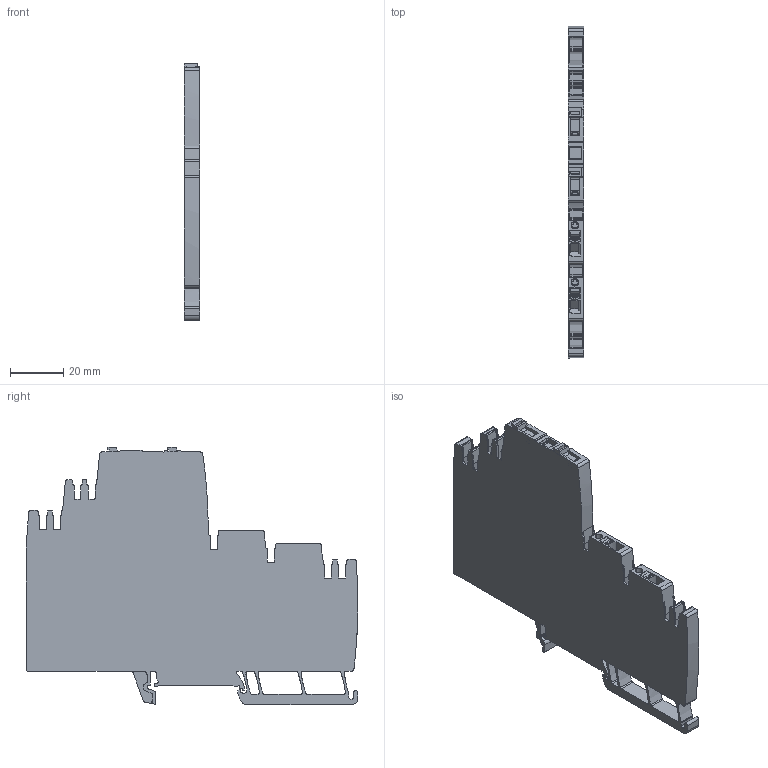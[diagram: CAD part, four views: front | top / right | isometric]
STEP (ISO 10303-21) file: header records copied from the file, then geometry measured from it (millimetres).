
FILE_DESCRIPTION(('CATIA V5R24 STEP','CAx-IF Rec.Pracs.--- Model Styling and Organization---1.2---2011-12-15'),'2;1');
FILE_NAME('\\SRVDE107\Germany\WMC\1_WMC_Input\Step_BU_PA\2495100000.stp','2016-12-15T10:23:00+00:00',('Weidmueller Interface'),('WI'),'CATIA Version 5-6 Release 2014 SP4','CATIA V5 STEP AP214','none');
FILE_SCHEMA(('AUTOMOTIVE_DESIGN { 1 0 10303 214 1 1 1 1 }'));
Length unit declared in the file: millimetre
Products named in the file (1): 2495100000
Bounding box: 6 x 125.07 x 96.85 mm (x, y, z)
Volume: 46536.6 mm3; surface area: 24794.5 mm2
Topology: 5 solids, 5 shells, 997 faces, 3128 edges, 2158 vertices
Faces by surface type: plane 519, cylinder 455, extrusion 22, torus 1
Entity records: 35039 total; most frequent: CARTESIAN_POINT 7039, ORIENTED_EDGE 6256, DIRECTION 4580, EDGE_CURVE 3128, VERTEX_POINT 2158, VECTOR 1996, LINE 1974, AXIS2_PLACEMENT_3D 1767
